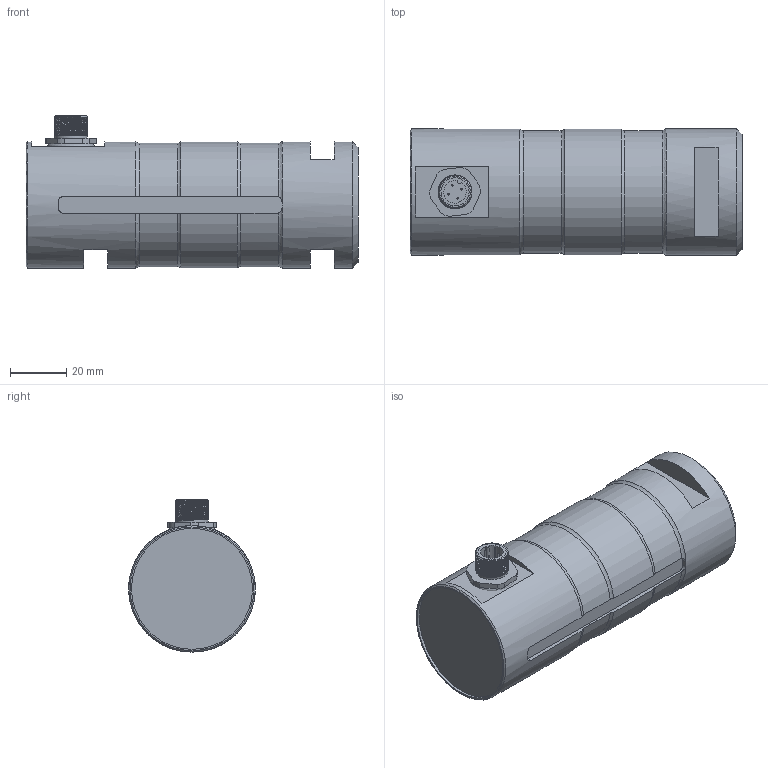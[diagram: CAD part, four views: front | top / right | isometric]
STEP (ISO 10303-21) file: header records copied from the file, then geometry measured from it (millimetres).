
FILE_DESCRIPTION(/* description */ ('Alibre Inc.'),/* implementation_level */ '2;1');
FILE_NAME(/* name */ 'export0',/* time_stamp */ '2015-10-21T12:54:46+02:00',/* author */ (''),/* organization */ (''),/* preprocessor_version */ 'ST-DEVELOPER v14',/* originating_system */ 'Alibre',/* authorisation */ '');
FILE_SCHEMA (('CONFIG_CONTROL_DESIGN'));
Length unit declared in the file: centimetre
Products named in the file (6): ID_1; ID_2; ID_3; ID_4
Bounding box: 118 x 45 x 54.12 mm (x, y, z)
Volume: 176632.9 mm3; surface area: 25242.1 mm2
Topology: 8 solids, 8 shells, 155 faces, 351 edges, 219 vertices
Faces by surface type: plane 66, cylinder 51, bspline 23, torus 9, cone 6
Full cylindrical faces by diameter (mm): 0.5 x8, 8 x2, 10 x3, 11.5 x1, 13 x1, 14.376 x1, 43 x1, 45 x2
Entity records: 14710 total; most frequent: CARTESIAN_POINT 11355, ORIENTED_EDGE 626, DIRECTION 404, EDGE_CURVE 308, VERTEX_POINT 205, FACE_BOUND 198, EDGE_LOOP 197, AXIS2_PLACEMENT_3D 180
